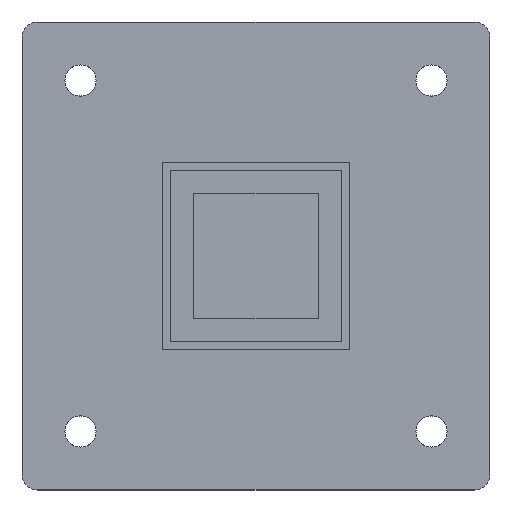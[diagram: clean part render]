
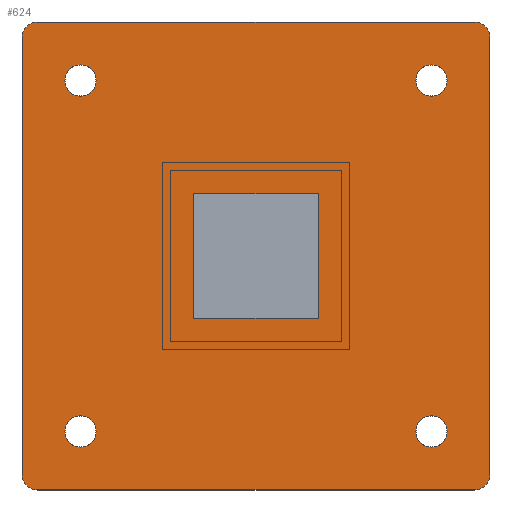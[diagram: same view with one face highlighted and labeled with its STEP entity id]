
A CAD part, top view. The second image highlights one B-rep face of the part: STEP entity #624.
In plain terms, the highlighted planar face has unit normal (0, 0, 1).
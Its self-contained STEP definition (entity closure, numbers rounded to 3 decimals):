
#252 = EDGE_CURVE( '', #280, #430, #717, .T. );
#268 = VERTEX_POINT( '', #734 );
#270 = EDGE_CURVE( '', #300, #280, #736, .T. );
#280 = VERTEX_POINT( '', #747 );
#290 = EDGE_CURVE( '', #322, #300, #759, .T. );
#300 = VERTEX_POINT( '', #770 );
#302 = VERTEX_POINT( '', #772 );
#312 = VERTEX_POINT( '', #782 );
#314 = EDGE_CURVE( '', #344, #322, #784, .T. );
#322 = VERTEX_POINT( '', #792 );
#330 = VERTEX_POINT( '', #801 );
#334 = EDGE_CURVE( '', #366, #344, #805, .T. );
#344 = VERTEX_POINT( '', #815 );
#346 = VERTEX_POINT( '', #817 );
#358 = EDGE_CURVE( '', #388, #366, #831, .T. );
#366 = VERTEX_POINT( '', #839 );
#376 = VERTEX_POINT( '', #851 );
#384 = EDGE_CURVE( '', #424, #388, #859, .T. );
#388 = VERTEX_POINT( '', #863 );
#394 = EDGE_CURVE( '', #312, #268, #870, .T. );
#418 = EDGE_CURVE( '', #430, #424, #899, .T. );
#424 = VERTEX_POINT( '', #905 );
#426 = EDGE_CURVE( '', #554, #544, #907, .T. );
#430 = VERTEX_POINT( '', #911 );
#436 = EDGE_CURVE( '', #346, #302, #917, .T. );
#444 = EDGE_CURVE( '', #268, #312, #926, .T. );
#448 = EDGE_CURVE( '', #544, #554, #931, .T. );
#458 = EDGE_CURVE( '', #376, #330, #944, .T. );
#470 = EDGE_CURVE( '', #502, #600, #958, .T. );
#494 = EDGE_CURVE( '', #550, #502, #983, .T. );
#502 = VERTEX_POINT( '', #991 );
#544 = VERTEX_POINT( '', #1036 );
#550 = VERTEX_POINT( '', #1042 );
#552 = EDGE_CURVE( '', #594, #550, #1044, .T. );
#554 = VERTEX_POINT( '', #1046 );
#590 = EDGE_CURVE( '', #600, #594, #1086, .T. );
#594 = VERTEX_POINT( '', #1090 );
#600 = VERTEX_POINT( '', #1096 );
#622 = EDGE_CURVE( '', #302, #346, #1127, .T. );
#624 = ADVANCED_FACE( '', ( #1129, #1130, #1131, #1132, #1133, #1134 ), #1135, .T. );
#676 = EDGE_CURVE( '', #330, #376, #1195, .T. );
#717 = CIRCLE( '', #1227, 2. );
#734 = CARTESIAN_POINT( '', ( 24.5, 22.5, 0. ) );
#736 = LINE( '', #1255, #1256 );
#747 = CARTESIAN_POINT( '', ( -28., -30., 0. ) );
#759 = CIRCLE( '', #1286, 2. );
#770 = CARTESIAN_POINT( '', ( 28., -30., 0. ) );
#772 = CARTESIAN_POINT( '', ( 20.5, -22.5, 0. ) );
#782 = CARTESIAN_POINT( '', ( 20.5, 22.5, 0. ) );
#784 = LINE( '', #1319, #1320 );
#792 = CARTESIAN_POINT( '', ( 30., -28., 0. ) );
#801 = CARTESIAN_POINT( '', ( -24.5, 22.5, 0. ) );
#805 = CIRCLE( '', #1350, 2. );
#815 = CARTESIAN_POINT( '', ( 30., 28., 0. ) );
#817 = CARTESIAN_POINT( '', ( 24.5, -22.5, 0. ) );
#831 = LINE( '', #1383, #1384 );
#839 = CARTESIAN_POINT( '', ( 28., 30., 0. ) );
#851 = CARTESIAN_POINT( '', ( -20.5, 22.5, 0. ) );
#859 = CIRCLE( '', #1425, 2. );
#863 = CARTESIAN_POINT( '', ( -28., 30., 0. ) );
#870 = CIRCLE( '', #1439, 2. );
#899 = LINE( '', #1481, #1482 );
#905 = CARTESIAN_POINT( '', ( -30., 28., 0. ) );
#907 = CIRCLE( '', #1493, 2. );
#911 = CARTESIAN_POINT( '', ( -30., -28., 0. ) );
#917 = CIRCLE( '', #1508, 2. );
#926 = CIRCLE( '', #1518, 2. );
#931 = CIRCLE( '', #1524, 2. );
#944 = CIRCLE( '', #1538, 2. );
#958 = LINE( '', #1558, #1559 );
#983 = LINE( '', #1593, #1594 );
#991 = CARTESIAN_POINT( '', ( 8., 8., 0. ) );
#1036 = CARTESIAN_POINT( '', ( -20.5, -22.5, 0. ) );
#1042 = CARTESIAN_POINT( '', ( -8., 8., 0. ) );
#1044 = LINE( '', #1684, #1685 );
#1046 = CARTESIAN_POINT( '', ( -24.5, -22.5, 0. ) );
#1086 = LINE( '', #1746, #1747 );
#1090 = CARTESIAN_POINT( '', ( -8., -8., 0. ) );
#1096 = CARTESIAN_POINT( '', ( 8., -8., 0. ) );
#1127 = CIRCLE( '', #1799, 2. );
#1129 = FACE_BOUND( '', #1801, .T. );
#1130 = FACE_OUTER_BOUND( '', #1802, .T. );
#1131 = FACE_BOUND( '', #1803, .T. );
#1132 = FACE_BOUND( '', #1804, .T. );
#1133 = FACE_BOUND( '', #1805, .T. );
#1134 = FACE_BOUND( '', #1806, .T. );
#1135 = PLANE( '', #1807 );
#1195 = CIRCLE( '', #1884, 2. );
#1227 = AXIS2_PLACEMENT_3D( '', #1926, #1927, #1928 );
#1255 = CARTESIAN_POINT( '', ( -28., -30., 0. ) );
#1256 = VECTOR( '', #1941, 1. );
#1286 = AXIS2_PLACEMENT_3D( '', #1969, #1970, #1971 );
#1319 = CARTESIAN_POINT( '', ( 30., -28., 0. ) );
#1320 = VECTOR( '', #1986, 1. );
#1350 = AXIS2_PLACEMENT_3D( '', #1999, #2000, #2001 );
#1383 = CARTESIAN_POINT( '', ( 28., 30., 0. ) );
#1384 = VECTOR( '', #2021, 1. );
#1425 = AXIS2_PLACEMENT_3D( '', #2044, #2045, #2046 );
#1439 = AXIS2_PLACEMENT_3D( '', #2056, #2057, #2058 );
#1481 = CARTESIAN_POINT( '', ( -30., 28., 0. ) );
#1482 = VECTOR( '', #2101, 1. );
#1493 = AXIS2_PLACEMENT_3D( '', #2103, #2104, #2105 );
#1508 = AXIS2_PLACEMENT_3D( '', #2108, #2109, #2110 );
#1518 = AXIS2_PLACEMENT_3D( '', #2119, #2120, #2121 );
#1524 = AXIS2_PLACEMENT_3D( '', #2130, #2131, #2132 );
#1538 = AXIS2_PLACEMENT_3D( '', #2157, #2158, #2159 );
#1558 = CARTESIAN_POINT( '', ( 8., 4., 0. ) );
#1559 = VECTOR( '', #2181, 1. );
#1593 = CARTESIAN_POINT( '', ( -4., 8., 0. ) );
#1594 = VECTOR( '', #2199, 1. );
#1684 = CARTESIAN_POINT( '', ( -8., -4., 0. ) );
#1685 = VECTOR( '', #2238, 1. );
#1746 = CARTESIAN_POINT( '', ( 4., -8., 0. ) );
#1747 = VECTOR( '', #2280, 1. );
#1799 = AXIS2_PLACEMENT_3D( '', #2340, #2341, #2342 );
#1801 = EDGE_LOOP( '', ( #2344, #2345, #2346, #2347 ) );
#1802 = EDGE_LOOP( '', ( #2348, #2349, #2350, #2351, #2352, #2353, #2354, #2355 ) );
#1803 = EDGE_LOOP( '', ( #2356, #2357 ) );
#1804 = EDGE_LOOP( '', ( #2358, #2359 ) );
#1805 = EDGE_LOOP( '', ( #2360, #2361 ) );
#1806 = EDGE_LOOP( '', ( #2362, #2363 ) );
#1807 = AXIS2_PLACEMENT_3D( '', #2364, #2365, #2366 );
#1884 = AXIS2_PLACEMENT_3D( '', #2445, #2446, #2447 );
#1926 = CARTESIAN_POINT( '', ( -28., -28., 0. ) );
#1927 = DIRECTION( '', ( 0., 0., -1. ) );
#1928 = DIRECTION( '', ( -1., 0., 0. ) );
#1941 = DIRECTION( '', ( -1., 0., 0. ) );
#1969 = CARTESIAN_POINT( '', ( 28., -28., 0. ) );
#1970 = DIRECTION( '', ( 0., 0., -1. ) );
#1971 = DIRECTION( '', ( 0., -1., 0. ) );
#1986 = DIRECTION( '', ( 0., -1., 0. ) );
#1999 = CARTESIAN_POINT( '', ( 28., 28., 0. ) );
#2000 = DIRECTION( '', ( 0., 0., -1. ) );
#2001 = DIRECTION( '', ( 1., 0., 0. ) );
#2021 = DIRECTION( '', ( 1., 0., 0. ) );
#2044 = CARTESIAN_POINT( '', ( -28., 28., 0. ) );
#2045 = DIRECTION( '', ( 0., 0., -1. ) );
#2046 = DIRECTION( '', ( 0., 1., 0. ) );
#2056 = CARTESIAN_POINT( '', ( 22.5, 22.5, 0. ) );
#2057 = DIRECTION( '', ( 0., 0., 1. ) );
#2058 = DIRECTION( '', ( 1., 0., 0. ) );
#2101 = DIRECTION( '', ( 0., 1., 0. ) );
#2103 = CARTESIAN_POINT( '', ( -22.5, -22.5, 0. ) );
#2104 = DIRECTION( '', ( 0., 0., 1. ) );
#2105 = DIRECTION( '', ( 1., 0., 0. ) );
#2108 = CARTESIAN_POINT( '', ( 22.5, -22.5, 0. ) );
#2109 = DIRECTION( '', ( 0., 0., 1. ) );
#2110 = DIRECTION( '', ( 1., 0., 0. ) );
#2119 = CARTESIAN_POINT( '', ( 22.5, 22.5, 0. ) );
#2120 = DIRECTION( '', ( 0., 0., 1. ) );
#2121 = DIRECTION( '', ( 1., 0., 0. ) );
#2130 = CARTESIAN_POINT( '', ( -22.5, -22.5, 0. ) );
#2131 = DIRECTION( '', ( 0., 0., 1. ) );
#2132 = DIRECTION( '', ( 1., 0., 0. ) );
#2157 = CARTESIAN_POINT( '', ( -22.5, 22.5, 0. ) );
#2158 = DIRECTION( '', ( 0., 0., 1. ) );
#2159 = DIRECTION( '', ( 1., 0., 0. ) );
#2181 = DIRECTION( '', ( 0., -1., 0. ) );
#2199 = DIRECTION( '', ( 1., 0., 0. ) );
#2238 = DIRECTION( '', ( 0., 1., 0. ) );
#2280 = DIRECTION( '', ( -1., 0., 0. ) );
#2340 = CARTESIAN_POINT( '', ( 22.5, -22.5, 0. ) );
#2341 = DIRECTION( '', ( 0., 0., 1. ) );
#2342 = DIRECTION( '', ( 1., 0., 0. ) );
#2344 = ORIENTED_EDGE( '', *, *, #494, .T. );
#2345 = ORIENTED_EDGE( '', *, *, #470, .T. );
#2346 = ORIENTED_EDGE( '', *, *, #590, .T. );
#2347 = ORIENTED_EDGE( '', *, *, #552, .T. );
#2348 = ORIENTED_EDGE( '', *, *, #418, .F. );
#2349 = ORIENTED_EDGE( '', *, *, #252, .F. );
#2350 = ORIENTED_EDGE( '', *, *, #270, .F. );
#2351 = ORIENTED_EDGE( '', *, *, #290, .F. );
#2352 = ORIENTED_EDGE( '', *, *, #314, .F. );
#2353 = ORIENTED_EDGE( '', *, *, #334, .F. );
#2354 = ORIENTED_EDGE( '', *, *, #358, .F. );
#2355 = ORIENTED_EDGE( '', *, *, #384, .F. );
#2356 = ORIENTED_EDGE( '', *, *, #436, .F. );
#2357 = ORIENTED_EDGE( '', *, *, #622, .F. );
#2358 = ORIENTED_EDGE( '', *, *, #444, .F. );
#2359 = ORIENTED_EDGE( '', *, *, #394, .F. );
#2360 = ORIENTED_EDGE( '', *, *, #448, .F. );
#2361 = ORIENTED_EDGE( '', *, *, #426, .F. );
#2362 = ORIENTED_EDGE( '', *, *, #458, .F. );
#2363 = ORIENTED_EDGE( '', *, *, #676, .F. );
#2364 = CARTESIAN_POINT( '', ( 0., 0., 0. ) );
#2365 = DIRECTION( '', ( 0., 0., 1. ) );
#2366 = DIRECTION( '', ( 1., 0., 0. ) );
#2445 = CARTESIAN_POINT( '', ( -22.5, 22.5, 0. ) );
#2446 = DIRECTION( '', ( 0., 0., 1. ) );
#2447 = DIRECTION( '', ( 1., 0., 0. ) );
